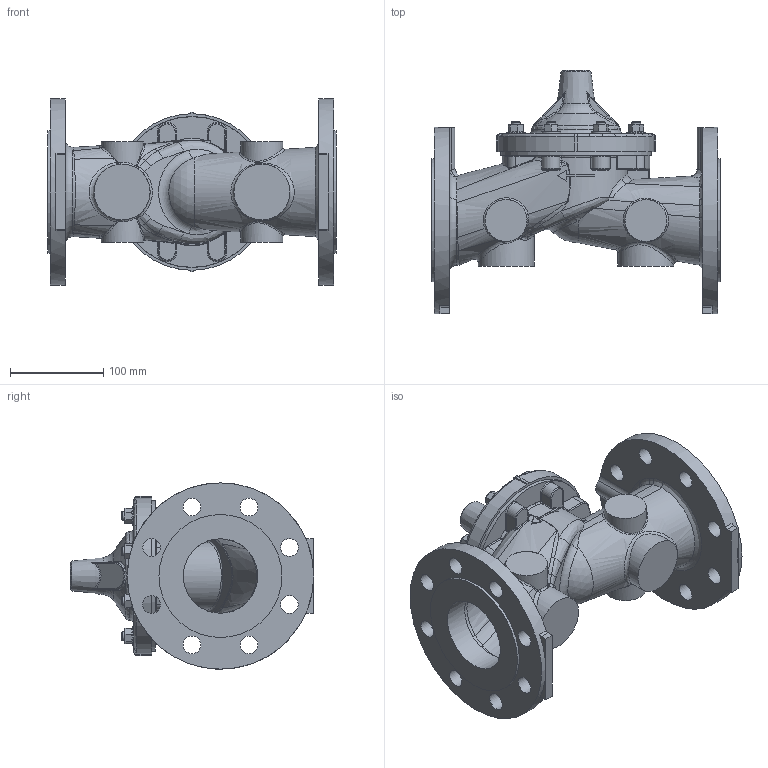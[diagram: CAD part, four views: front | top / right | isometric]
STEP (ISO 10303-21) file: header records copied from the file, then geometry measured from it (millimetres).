
FILE_DESCRIPTION(/* description */ (''),/* implementation_level */ '2;1');
FILE_NAME(/* name */ 'G:\Doc_Liberes\SymbolesCAD\Modeles_3D\FichierSTP\VanneDeBase\NGE080-40RF.stp',/* time_stamp */ '2023-08-16T15:24:28+02:00',/* author */ ('Cédric'),/* organization */ (''),/* preprocessor_version */ 'ST-DEVELOPER v18.1',/* originating_system */ 'Autodesk Inventor 2022',/* authorisation */ '');
FILE_SCHEMA (('AUTOMOTIVE_DESIGN { 1 0 10303 214 3 1 1 }'));
Products named in the file (1): NGE080_Simplifier_1
Bounding box: 310 x 261.15 x 200 mm (x, y, z)
Volume: 2209899.7 mm3; surface area: 428667.2 mm2
Topology: 1 solids, 1 shells, 1407 faces, 3686 edges, 2335 vertices
Faces by surface type: plane 554, bspline 422, cone 174, cylinder 163, torus 91, sphere 3
Full cylindrical faces by diameter (mm): 9.525 x16, 19 x16, 20.637 x8, 27 x1, 45 x4, 60 x2, 73 x1, 76 x1, 78.87 x1, 78.9 x1, 80 x2, 132 x2, 161.75 x1, 162 x1, 200 x2
Entity records: 60286 total; most frequent: CARTESIAN_POINT 27607, ORIENTED_EDGE 7334, DIRECTION 5218, EDGE_CURVE 3667, VERTEX_POINT 2335, AXIS2_PLACEMENT_3D 1939, EDGE_LOOP 1534, STYLED_ITEM 1408
